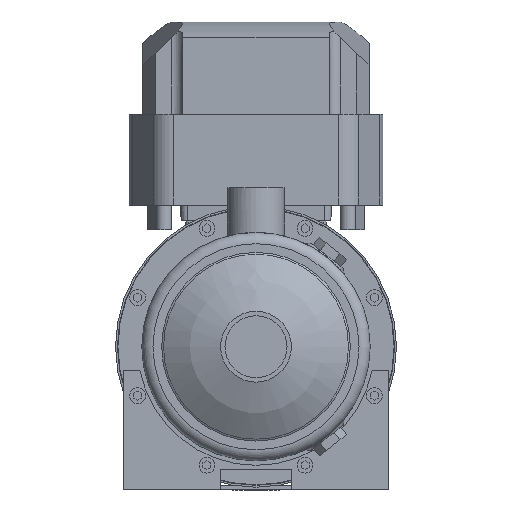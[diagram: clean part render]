
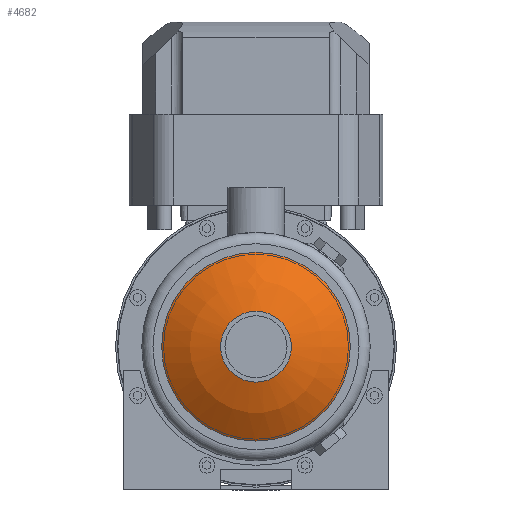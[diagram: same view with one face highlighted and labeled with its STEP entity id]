
A CAD part, left-side view. The second image highlights one B-rep face of the part: STEP entity #4682.
In plain terms, the highlighted spherical face has radius 100 mm.
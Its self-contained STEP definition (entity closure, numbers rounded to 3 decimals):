
#52=SPHERICAL_SURFACE('',#6084,100.);
#1115=ORIENTED_EDGE('',*,*,#2408,.T.);
#1116=ORIENTED_EDGE('',*,*,#2407,.F.);
#2407=EDGE_CURVE('',#3058,#3058,#3505,.T.);
#2408=EDGE_CURVE('',#3059,#3059,#3506,.T.);
#3058=VERTEX_POINT('',#8098);
#3059=VERTEX_POINT('',#8101);
#3505=CIRCLE('',#6083,22.25);
#3506=CIRCLE('',#6085,59.25);
#3691=EDGE_LOOP('',(#1115));
#3692=EDGE_LOOP('',(#1116));
#4096=FACE_BOUND('',#3691,.T.);
#4097=FACE_BOUND('',#3692,.T.);
#4682=ADVANCED_FACE('',(#4096,#4097),#52,.T.);
#6083=AXIS2_PLACEMENT_3D('',#8097,#6613,#6614);
#6084=AXIS2_PLACEMENT_3D('',#8099,#6615,#6616);
#6085=AXIS2_PLACEMENT_3D('',#8100,#6617,#6618);
#6613=DIRECTION('',(-1.,0.,0.));
#6614=DIRECTION('',(0.,0.,1.));
#6615=DIRECTION('',(-1.,0.,0.));
#6616=DIRECTION('',(0.,0.,1.));
#6617=DIRECTION('',(-1.,0.,0.));
#6618=DIRECTION('',(0.,0.,1.));
#8097=CARTESIAN_POINT('',(-43.293,0.,0.));
#8098=CARTESIAN_POINT('',(-43.293,0.,22.25));
#8099=CARTESIAN_POINT('',(54.2,0.,0.));
#8100=CARTESIAN_POINT('',(-26.357,0.,0.));
#8101=CARTESIAN_POINT('',(-26.357,0.,59.25));
